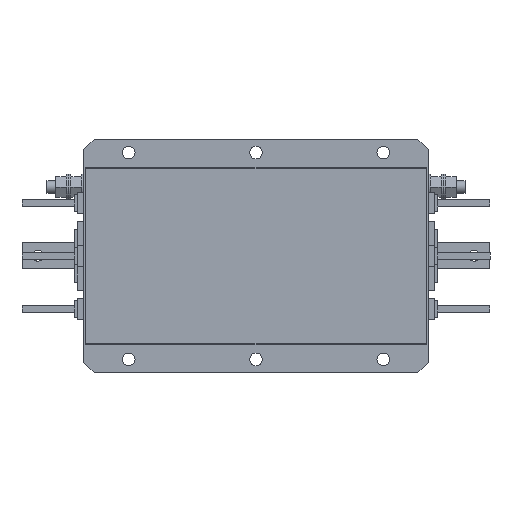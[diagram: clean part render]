
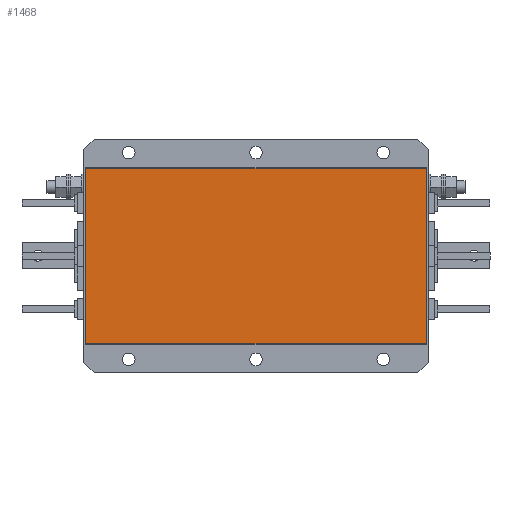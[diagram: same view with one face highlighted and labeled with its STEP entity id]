
A CAD part, left-side view. The second image highlights one B-rep face of the part: STEP entity #1468.
In plain terms, the highlighted planar face has unit normal (-1, 0, 0).
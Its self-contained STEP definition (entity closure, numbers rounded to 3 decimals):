
#229 = EDGE_LOOP ( 'NONE', ( #2162, #10561, #2003, #6367 ) ) ;
#335 = VERTEX_POINT ( 'NONE', #14608 ) ;
#746 = CARTESIAN_POINT ( 'NONE',  ( 0., 160.3, -82.8 ) ) ;
#1466 = VECTOR ( 'NONE', #6261, 1000. ) ;
#1468 = ADVANCED_FACE ( 'NONE', ( #17245 ), #14532, .F. ) ;
#1541 = CARTESIAN_POINT ( 'NONE',  ( 0., 160.3, 82.8 ) ) ;
#2003 = ORIENTED_EDGE ( 'NONE', *, *, #15223, .T. ) ;
#2162 = ORIENTED_EDGE ( 'NONE', *, *, #13817, .T. ) ;
#2452 = EDGE_CURVE ( 'NONE', #335, #6895, #8684, .T. ) ;
#3521 = LINE ( 'NONE', #9039, #5473 ) ;
#4104 = VERTEX_POINT ( 'NONE', #13610 ) ;
#4505 = CARTESIAN_POINT ( 'NONE',  ( 0., -160.3, 82.8 ) ) ;
#4627 = EDGE_CURVE ( 'NONE', #4104, #6525, #3521, .T. ) ;
#5473 = VECTOR ( 'NONE', #12918, 1000. ) ;
#6261 = DIRECTION ( 'NONE',  ( 0., -1., 0. ) ) ;
#6367 = ORIENTED_EDGE ( 'NONE', *, *, #2452, .T. ) ;
#6525 = VERTEX_POINT ( 'NONE', #12622 ) ;
#6895 = VERTEX_POINT ( 'NONE', #13947 ) ;
#8590 = LINE ( 'NONE', #4505, #13914 ) ;
#8684 = LINE ( 'NONE', #1541, #9597 ) ;
#9039 = CARTESIAN_POINT ( 'NONE',  ( 0., -160.3, -82.8 ) ) ;
#9597 = VECTOR ( 'NONE', #16973, 1000. ) ;
#9668 = DIRECTION ( 'NONE',  ( 0., 1., 0. ) ) ;
#10561 = ORIENTED_EDGE ( 'NONE', *, *, #4627, .T. ) ;
#11926 = DIRECTION ( 'NONE',  ( 1., 0., 0. ) ) ;
#12622 = CARTESIAN_POINT ( 'NONE',  ( 0., -160.3, 82.8 ) ) ;
#12918 = DIRECTION ( 'NONE',  ( 0., 0., 1. ) ) ;
#13276 = CARTESIAN_POINT ( 'NONE',  ( 0., 0., 0. ) ) ;
#13610 = CARTESIAN_POINT ( 'NONE',  ( 0., -160.3, -82.8 ) ) ;
#13817 = EDGE_CURVE ( 'NONE', #6895, #4104, #15814, .T. ) ;
#13914 = VECTOR ( 'NONE', #9668, 1000. ) ;
#13947 = CARTESIAN_POINT ( 'NONE',  ( 0., 160.3, -82.8 ) ) ;
#14532 = PLANE ( 'NONE',  #16036 ) ;
#14608 = CARTESIAN_POINT ( 'NONE',  ( 0., 160.3, 82.8 ) ) ;
#15223 = EDGE_CURVE ( 'NONE', #6525, #335, #8590, .T. ) ;
#15814 = LINE ( 'NONE', #746, #1466 ) ;
#16036 = AXIS2_PLACEMENT_3D ( 'NONE', #13276, #11926, #17434 ) ;
#16973 = DIRECTION ( 'NONE',  ( 0., 0., -1. ) ) ;
#17245 = FACE_OUTER_BOUND ( 'NONE', #229, .T. ) ;
#17434 = DIRECTION ( 'NONE',  ( 0., 1., 0. ) ) ;
